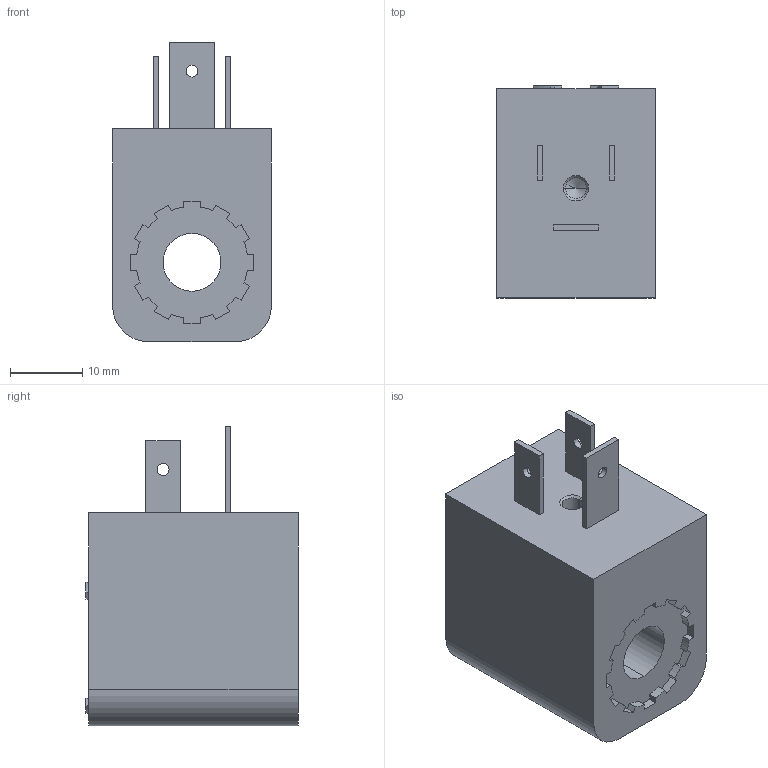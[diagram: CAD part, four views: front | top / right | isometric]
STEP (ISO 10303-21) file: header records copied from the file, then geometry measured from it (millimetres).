
FILE_DESCRIPTION((''),'2;1');
FILE_NAME('0498317405','2024-05-15T18:00:56',('GND7HC'),(''),'CREO PARAMETRIC BY PTC INC, 2023092','CREO PARAMETRIC BY PTC INC, 2023092','');
FILE_SCHEMA(('CONFIG_CONTROL_DESIGN','SHAPE_APPEARANCE_LAYERS_GROUPS'));
Length unit declared in the file: millimetre
Products named in the file (1): 0498317405
Bounding box: 22 x 29.4 x 41.5 mm (x, y, z)
Volume: 16754 mm3; surface area: 5304.9 mm2
Topology: 1 solids, 1 shells, 112 faces, 296 edges, 195 vertices
Faces by surface type: plane 72, cylinder 36, cone 4
Entity records: 5601 total; most frequent: CARTESIAN_POINT 601, DIRECTION 592, ORIENTED_EDGE 588, PRESENTATION_STYLE_ASSIGNMENT 406, STYLED_ITEM 323, CURVE_STYLE 294, EDGE_CURVE 294, VECTOR 220
